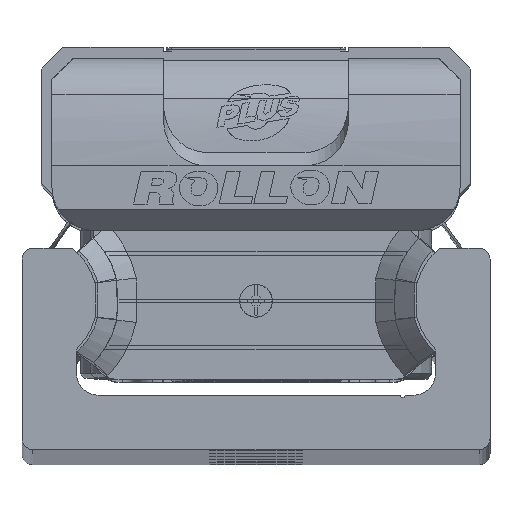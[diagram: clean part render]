
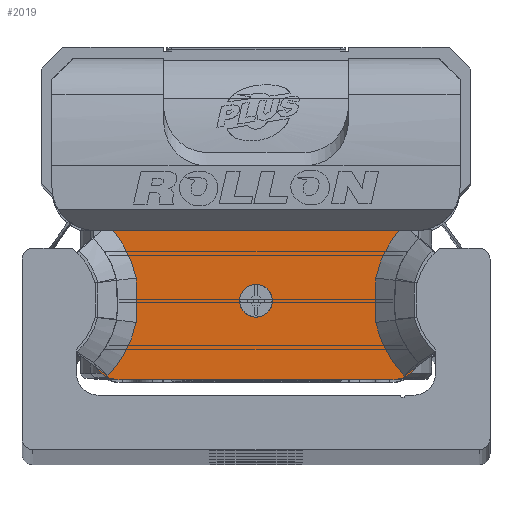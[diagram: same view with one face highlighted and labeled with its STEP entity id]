
A CAD part, top view. The second image highlights one B-rep face of the part: STEP entity #2019.
In plain terms, the highlighted planar face has unit normal (0, 0, 1) as drawn and (0, 0, -1) by its records, which use the part's own axes.
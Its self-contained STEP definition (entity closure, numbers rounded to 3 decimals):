
#2019 = ADVANCED_FACE( '', ( #4188, #4189 ), #4190, .F. );
#4188 = FACE_BOUND( '', #6518, .T. );
#4189 = FACE_OUTER_BOUND( '', #6519, .T. );
#4190 = PLANE( '', #6520 );
#6518 = EDGE_LOOP( '', ( #11941 ) );
#6519 = EDGE_LOOP( '', ( #11942, #11943, #11944, #11945, #11946, #11947, #11948, #11949, #11950, #11951, #11952, #11953 ) );
#6520 = AXIS2_PLACEMENT_3D( '', #11954, #11955, #11956 );
#11941 = ORIENTED_EDGE( '', *, *, #13070, .T. );
#11942 = ORIENTED_EDGE( '', *, *, #14518, .T. );
#11943 = ORIENTED_EDGE( '', *, *, #13233, .F. );
#11944 = ORIENTED_EDGE( '', *, *, #13840, .T. );
#11945 = ORIENTED_EDGE( '', *, *, #13945, .F. );
#11946 = ORIENTED_EDGE( '', *, *, #14278, .T. );
#11947 = ORIENTED_EDGE( '', *, *, #14398, .T. );
#11948 = ORIENTED_EDGE( '', *, *, #13928, .T. );
#11949 = ORIENTED_EDGE( '', *, *, #13349, .T. );
#11950 = ORIENTED_EDGE( '', *, *, #14395, .T. );
#11951 = ORIENTED_EDGE( '', *, *, #14099, .T. );
#11952 = ORIENTED_EDGE( '', *, *, #14434, .T. );
#11953 = ORIENTED_EDGE( '', *, *, #14309, .T. );
#11954 = CARTESIAN_POINT( '', ( 14.9, 7.35, -13.25 ) );
#11955 = DIRECTION( '', ( 0., 0., 1. ) );
#11956 = DIRECTION( '', ( 1., 0., 0. ) );
#13070 = EDGE_CURVE( '', #15808, #15808, #15809, .T. );
#13233 = EDGE_CURVE( '', #16066, #14620, #16068, .T. );
#13349 = EDGE_CURVE( '', #16255, #16253, #16256, .T. );
#13840 = EDGE_CURVE( '', #16066, #16966, #16968, .T. );
#13928 = EDGE_CURVE( '', #17093, #16255, #17094, .T. );
#13945 = EDGE_CURVE( '', #15205, #16966, #17116, .T. );
#14099 = EDGE_CURVE( '', #17314, #17320, #17322, .T. );
#14278 = EDGE_CURVE( '', #15205, #17546, #17548, .T. );
#14309 = EDGE_CURVE( '', #17588, #17586, #17589, .T. );
#14395 = EDGE_CURVE( '', #16253, #17314, #17688, .T. );
#14398 = EDGE_CURVE( '', #17546, #17093, #17691, .T. );
#14434 = EDGE_CURVE( '', #17320, #17588, #17732, .T. );
#14518 = EDGE_CURVE( '', #17586, #14620, #17818, .T. );
#14620 = VERTEX_POINT( '', #17924 );
#15205 = VERTEX_POINT( '', #18692 );
#15808 = VERTEX_POINT( '', #19544 );
#15809 = CIRCLE( '', #19545, 1.5 );
#16066 = VERTEX_POINT( '', #19935 );
#16068 = CIRCLE( '', #19938, 2.5 );
#16253 = VERTEX_POINT( '', #20182 );
#16255 = VERTEX_POINT( '', #20187 );
#16256 = B_SPLINE_CURVE_WITH_KNOTS( '', 2, ( #20188, #20189, #20190, #20191, #20192 ), .UNSPECIFIED., .F., .F., ( 3, 2, 3 ), ( 0., 0.5, 0.868 ), .UNSPECIFIED. );
#16966 = VERTEX_POINT( '', #21213 );
#16968 = LINE( '', #21216, #21217 );
#17093 = VERTEX_POINT( '', #21452 );
#17094 = B_SPLINE_CURVE_WITH_KNOTS( '', 2, ( #21453, #21454, #21455 ), .UNSPECIFIED., .F., .F., ( 3, 3 ), ( 0., 1. ), .UNSPECIFIED. );
#17116 = CIRCLE( '', #21482, 2.5 );
#17314 = VERTEX_POINT( '', #21769 );
#17320 = VERTEX_POINT( '', #21782 );
#17322 = B_SPLINE_CURVE_WITH_KNOTS( '', 2, ( #21785, #21786, #21787, #21788, #21789 ), .UNSPECIFIED., .F., .F., ( 3, 2, 3 ), ( 0.133, 0.5, 1. ), .UNSPECIFIED. );
#17546 = VERTEX_POINT( '', #22075 );
#17548 = B_SPLINE_CURVE_WITH_KNOTS( '', 1, ( #22078, #22079 ), .UNSPECIFIED., .F., .F., ( 2, 2 ), ( 0., 1. ), .UNSPECIFIED. );
#17586 = VERTEX_POINT( '', #22152 );
#17588 = VERTEX_POINT( '', #22155 );
#17589 = B_SPLINE_CURVE_WITH_KNOTS( '', 2, ( #22156, #22157, #22158, #22159, #22160 ), .UNSPECIFIED., .F., .F., ( 3, 2, 3 ), ( 0., 0.5, 1. ), .UNSPECIFIED. );
#17688 = LINE( '', #22289, #22290 );
#17691 = B_SPLINE_CURVE_WITH_KNOTS( '', 2, ( #22294, #22295, #22296, #22297, #22298 ), .UNSPECIFIED., .F., .F., ( 3, 2, 3 ), ( 0., 0.5, 1. ), .UNSPECIFIED. );
#17732 = B_SPLINE_CURVE_WITH_KNOTS( '', 2, ( #22364, #22365, #22366 ), .UNSPECIFIED., .F., .F., ( 3, 3 ), ( 0., 1. ), .UNSPECIFIED. );
#17818 = B_SPLINE_CURVE_WITH_KNOTS( '', 1, ( #22472, #22473 ), .UNSPECIFIED., .F., .F., ( 2, 2 ), ( 0., 1. ), .UNSPECIFIED. );
#17924 = CARTESIAN_POINT( '', ( 14.906, -5.717, -13.25 ) );
#18692 = CARTESIAN_POINT( '', ( -14.904, -5.718, -13.25 ) );
#19544 = CARTESIAN_POINT( '', ( 1.5, -0.05, -13.25 ) );
#19545 = AXIS2_PLACEMENT_3D( '', #23503, #23504, #23505 );
#19935 = CARTESIAN_POINT( '', ( 12.58, -7.3, -13.25 ) );
#19938 = AXIS2_PLACEMENT_3D( '', #23733, #23734, #23735 );
#20182 = CARTESIAN_POINT( '', ( -13.119, 6.4, -13.25 ) );
#20187 = CARTESIAN_POINT( '', ( -11.012, 2.045, -13.25 ) );
#20188 = CARTESIAN_POINT( '', ( -11.012, 2.045, -13.25 ) );
#20189 = CARTESIAN_POINT( '', ( -11.302, 3.432, -13.25 ) );
#20190 = CARTESIAN_POINT( '', ( -11.967, 4.685, -13.25 ) );
#20191 = CARTESIAN_POINT( '', ( -12.456, 5.606, -13.25 ) );
#20192 = CARTESIAN_POINT( '', ( -13.119, 6.4, -13.25 ) );
#21213 = CARTESIAN_POINT( '', ( -12.58, -7.3, -13.25 ) );
#21216 = CARTESIAN_POINT( '', ( 12.58, -7.3, -13.25 ) );
#21217 = VECTOR( '', #24502, 1000. );
#21452 = CARTESIAN_POINT( '', ( -11.012, -2.045, -13.25 ) );
#21453 = CARTESIAN_POINT( '', ( -11.012, -2.045, -13.25 ) );
#21454 = CARTESIAN_POINT( '', ( -10.888, 0., -13.25 ) );
#21455 = CARTESIAN_POINT( '', ( -11.012, 2.045, -13.25 ) );
#21482 = AXIS2_PLACEMENT_3D( '', #24674, #24675, #24676 );
#21769 = CARTESIAN_POINT( '', ( 13.12, 6.4, -13.25 ) );
#21782 = CARTESIAN_POINT( '', ( 11.012, 2.045, -13.25 ) );
#21785 = CARTESIAN_POINT( '', ( 13.119, 6.4, -13.25 ) );
#21786 = CARTESIAN_POINT( '', ( 12.459, 5.608, -13.25 ) );
#21787 = CARTESIAN_POINT( '', ( 11.968, 4.684, -13.25 ) );
#21788 = CARTESIAN_POINT( '', ( 11.301, 3.427, -13.25 ) );
#21789 = CARTESIAN_POINT( '', ( 11.012, 2.045, -13.25 ) );
#22075 = CARTESIAN_POINT( '', ( -13.628, -6.965, -13.25 ) );
#22078 = CARTESIAN_POINT( '', ( -14.915, -5.713, -13.25 ) );
#22079 = CARTESIAN_POINT( '', ( -13.628, -6.965, -13.25 ) );
#22152 = CARTESIAN_POINT( '', ( 13.628, -6.965, -13.25 ) );
#22155 = CARTESIAN_POINT( '', ( 11.012, -2.045, -13.25 ) );
#22156 = CARTESIAN_POINT( '', ( 11.012, -2.045, -13.25 ) );
#22157 = CARTESIAN_POINT( '', ( 11.301, -3.43, -13.25 ) );
#22158 = CARTESIAN_POINT( '', ( 11.972, -4.69, -13.25 ) );
#22159 = CARTESIAN_POINT( '', ( 12.642, -5.95, -13.25 ) );
#22160 = CARTESIAN_POINT( '', ( 13.628, -6.965, -13.25 ) );
#22289 = CARTESIAN_POINT( '', ( 14.9, 6.4, -13.25 ) );
#22290 = VECTOR( '', #25190, 1000. );
#22294 = CARTESIAN_POINT( '', ( -13.628, -6.965, -13.25 ) );
#22295 = CARTESIAN_POINT( '', ( -12.638, -5.946, -13.25 ) );
#22296 = CARTESIAN_POINT( '', ( -11.97, -4.691, -13.25 ) );
#22297 = CARTESIAN_POINT( '', ( -11.303, -3.437, -13.25 ) );
#22298 = CARTESIAN_POINT( '', ( -11.012, -2.045, -13.25 ) );
#22364 = CARTESIAN_POINT( '', ( 11.012, 2.045, -13.25 ) );
#22365 = CARTESIAN_POINT( '', ( 10.888, 0., -13.25 ) );
#22366 = CARTESIAN_POINT( '', ( 11.012, -2.045, -13.25 ) );
#22472 = CARTESIAN_POINT( '', ( 13.628, -6.965, -13.25 ) );
#22473 = CARTESIAN_POINT( '', ( 14.9, -5.728, -13.25 ) );
#23503 = CARTESIAN_POINT( '', ( 0., -0.05, -13.25 ) );
#23504 = DIRECTION( '', ( 0., 0., 1. ) );
#23505 = DIRECTION( '', ( 1., 0., 0. ) );
#23733 = CARTESIAN_POINT( '', ( 12.58, -4.8, -13.25 ) );
#23734 = DIRECTION( '', ( 0., 0., 1. ) );
#23735 = DIRECTION( '', ( 1., 0., 0. ) );
#24502 = DIRECTION( '', ( -1., 0., 0. ) );
#24674 = CARTESIAN_POINT( '', ( -12.58, -4.8, -13.25 ) );
#24675 = DIRECTION( '', ( 0., 0., 1. ) );
#24676 = DIRECTION( '', ( 1., 0., 0. ) );
#25190 = DIRECTION( '', ( 1., 0., 0. ) );
